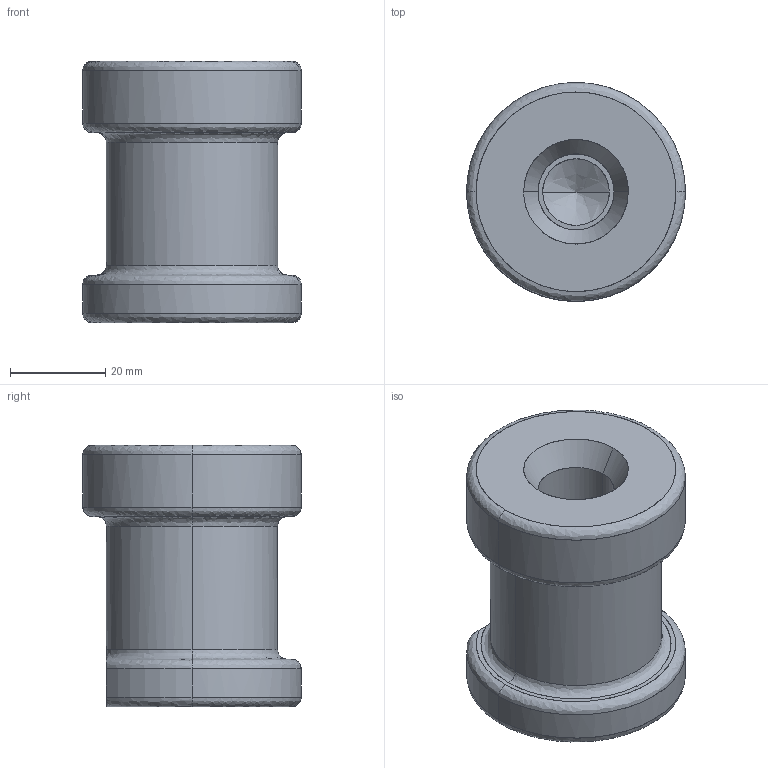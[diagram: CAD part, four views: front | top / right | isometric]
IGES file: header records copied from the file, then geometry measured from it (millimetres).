
Global section: file name: E:\UnigraphicsGraphicData\MISUMI_PRESS-PARTS\IGES\3d_csn16_03665_r00.igs; native system: NX V5.0; preprocessor: UGS NX IGES V5.0; author: MISUMI; date: 20110105.160454; units: millimetre
Bounding box: 46 x 45.99 x 55 mm (x, y, z)
Surface area: 12903.3 mm2 (no closed solid volume)
Topology: 0 solids, 0 shells, 36 faces, 255 edges, 253 vertices
Faces by surface type: bspline 36
